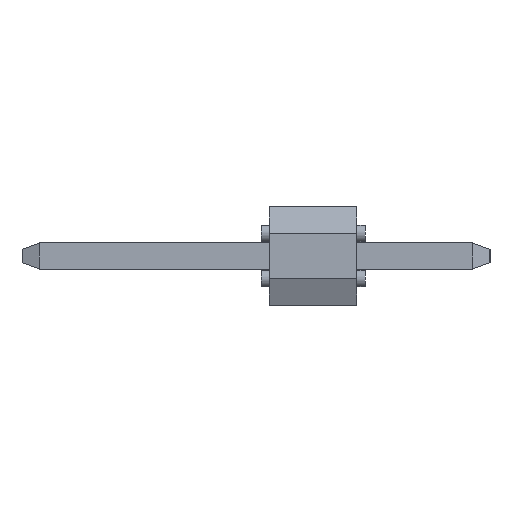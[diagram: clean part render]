
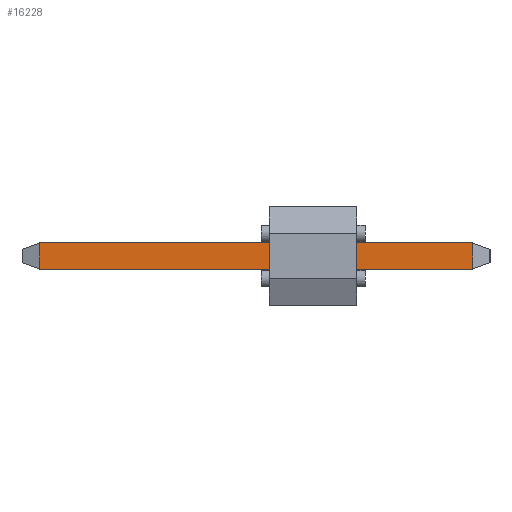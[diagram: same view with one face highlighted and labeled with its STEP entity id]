
A CAD part, left-side view. The second image highlights one B-rep face of the part: STEP entity #16228.
In plain terms, the highlighted planar face has unit normal (-1, 0, 0).
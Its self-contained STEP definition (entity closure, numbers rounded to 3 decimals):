
#8 = VERTEX_POINT ( 'NONE', #9083 ) ;
#35 = ORIENTED_EDGE ( 'NONE', *, *, #753, .T. ) ;
#618 = VERTEX_POINT ( 'NONE', #6239 ) ;
#753 = EDGE_CURVE ( 'NONE', #8430, #8, #5312, .T. ) ;
#811 = VECTOR ( 'NONE', #10987, 1000. ) ;
#968 = LINE ( 'NONE', #15570, #15452 ) ;
#1002 = VERTEX_POINT ( 'NONE', #8683 ) ;
#1404 = EDGE_CURVE ( 'NONE', #1002, #8430, #5758, .T. ) ;
#1564 = DIRECTION ( 'NONE',  ( 0., 0., -1. ) ) ;
#1671 = CARTESIAN_POINT ( 'NONE',  ( -29.53, -2.624, -0.32 ) ) ;
#1800 = PLANE ( 'NONE',  #7309 ) ;
#2404 = EDGE_LOOP ( 'NONE', ( #35, #9487, #2696, #14286 ) ) ;
#2696 = ORIENTED_EDGE ( 'NONE', *, *, #4374, .F. ) ;
#2901 = VECTOR ( 'NONE', #14507, 1000. ) ;
#4374 = EDGE_CURVE ( 'NONE', #1002, #618, #968, .T. ) ;
#5312 = LINE ( 'NONE', #1671, #13799 ) ;
#5367 = LINE ( 'NONE', #10418, #2901 ) ;
#5758 = LINE ( 'NONE', #14749, #811 ) ;
#6020 = CARTESIAN_POINT ( 'NONE',  ( -29.53, -2.624, -0.32 ) ) ;
#6239 = CARTESIAN_POINT ( 'NONE',  ( -29.53, 7.954, 0.32 ) ) ;
#6623 = CARTESIAN_POINT ( 'NONE',  ( -29.53, 8.38, -0.32 ) ) ;
#7309 = AXIS2_PLACEMENT_3D ( 'NONE', #6623, #12927, #1564 ) ;
#7860 = FACE_OUTER_BOUND ( 'NONE', #2404, .T. ) ;
#8430 = VERTEX_POINT ( 'NONE', #6020 ) ;
#8683 = CARTESIAN_POINT ( 'NONE',  ( -29.53, 7.954, -0.32 ) ) ;
#9083 = CARTESIAN_POINT ( 'NONE',  ( -29.53, -2.624, 0.32 ) ) ;
#9478 = EDGE_CURVE ( 'NONE', #618, #8, #5367, .T. ) ;
#9487 = ORIENTED_EDGE ( 'NONE', *, *, #9478, .F. ) ;
#10418 = CARTESIAN_POINT ( 'NONE',  ( -29.53, 8.38, 0.32 ) ) ;
#10473 = DIRECTION ( 'NONE',  ( 0., 0., 1. ) ) ;
#10987 = DIRECTION ( 'NONE',  ( 0., -1., 0. ) ) ;
#11454 = DIRECTION ( 'NONE',  ( 0., 0., 1. ) ) ;
#12927 = DIRECTION ( 'NONE',  ( 1., 0., 0. ) ) ;
#13799 = VECTOR ( 'NONE', #11454, 1000. ) ;
#14286 = ORIENTED_EDGE ( 'NONE', *, *, #1404, .T. ) ;
#14507 = DIRECTION ( 'NONE',  ( 0., -1., 0. ) ) ;
#14749 = CARTESIAN_POINT ( 'NONE',  ( -29.53, 8.38, -0.32 ) ) ;
#15452 = VECTOR ( 'NONE', #10473, 1000. ) ;
#15570 = CARTESIAN_POINT ( 'NONE',  ( -29.53, 7.954, -0.32 ) ) ;
#16228 = ADVANCED_FACE ( 'NONE', ( #7860 ), #1800, .F. ) ;
